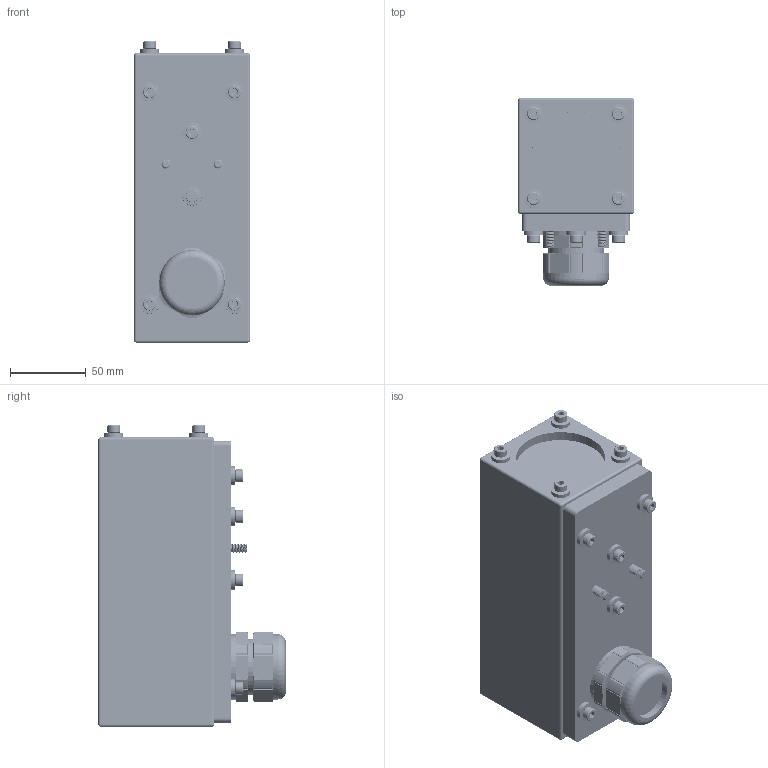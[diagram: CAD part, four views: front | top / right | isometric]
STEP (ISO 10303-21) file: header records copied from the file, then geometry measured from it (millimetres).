
FILE_DESCRIPTION (( 'STEP AP203' ), '1' );
FILE_NAME ('30D-FF.STEP', '2021-10-05T13:19:49', ( '' ), ( '' ), 'SwSTEP 2.0', 'SolidWorks 2021', '' );
FILE_SCHEMA (( 'CONFIG_CONTROL_DESIGN' ));
Length unit declared in the file: inch
Products named in the file (23): PG29-I01; 200400; 91292A126_91292A126; 400109; 200723; 91292A137; 93625A200; PG29-N03; 9452K140_9452K14; 30D-FF; SP-M5-2; 94709A212; 400108; 200343; PG29-S01; 91292A112_91292A112; 94709A214; PG29-04-01-01-03; 200305; PG29-B04; 91292A128; 200401; 500103
Assembly tree (51 placements, depth 3):
  30D-FF
    200305
    200401
      200400
      SP-M5-2  x4
    400108
    400109
    500103
    200343
    200723
    93625A200  x4
    94709A212  x10
    91292A128  x4
    91292A126_91292A126  x6
    94709A214  x2
    91292A137  x2
    9452K140_9452K14  x4
    91292A112_91292A112  x2
    PG29-04-01-01-03
      PG29-B04
      PG29-I01
      PG29-S01
      PG29-N03
Bounding box: 76.2 x 123.31 x 198.35 mm (x, y, z)
Volume: 303036.6 mm3; surface area: 230088.7 mm2
Topology: 66 solids, 66 shells, 2852 faces, 7595 edges, 4887 vertices
Faces by surface type: cylinder 1705, plane 582, cone 344, sphere 104, torus 77, bspline 40
Entity records: 45857 total; most frequent: CARTESIAN_POINT 17859, ORIENTED_EDGE 5604, DIRECTION 4829, EDGE_CURVE 2802, AXIS2_PLACEMENT_3D 1834, VERTEX_POINT 1796, EDGE_LOOP 1186, VECTOR 1161
